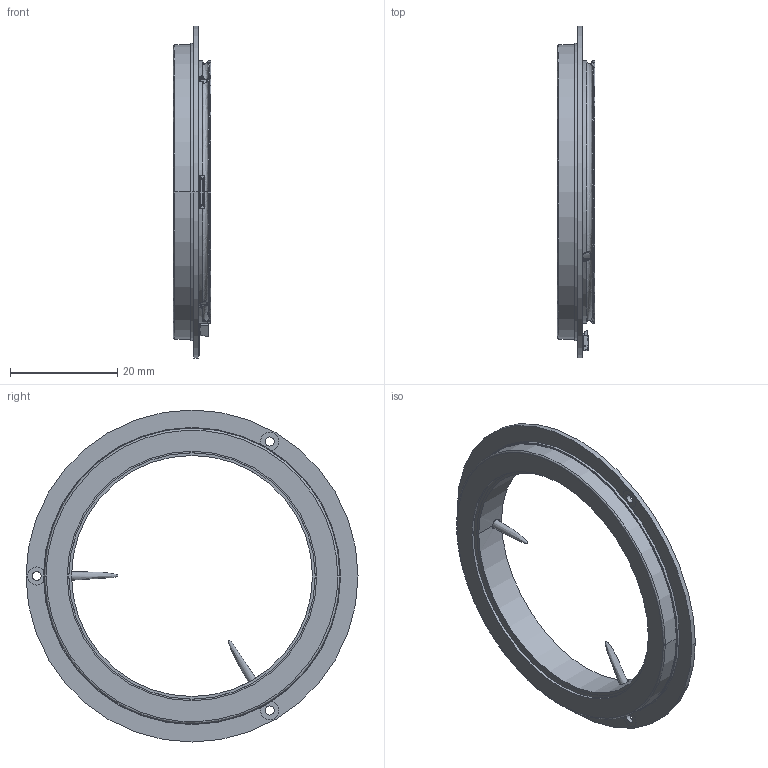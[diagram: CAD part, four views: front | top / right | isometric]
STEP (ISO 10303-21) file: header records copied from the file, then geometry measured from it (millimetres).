
FILE_DESCRIPTION (( 'STEP AP214' ), '1' );
FILE_NAME ('MBS-45-62¸üÐÂ.STEP', '2024-07-16T06:42:43', ( '' ), ( '' ), 'SwSTEP 2.0', 'SolidWorks 2016', '' );
FILE_SCHEMA (( 'AUTOMOTIVE_DESIGN' ));
Length unit declared in the file: millimetre
Products named in the file (1): MBS-45-62載陔
Bounding box: 7 x 62 x 62 mm (x, y, z)
Surface area: 9171.8 mm2 (no closed solid volume)
Topology: 0 solids, 13 shells, 791 faces, 2087 edges, 1372 vertices
Faces by surface type: plane 544, bspline 157, cylinder 78, cone 12
Entity records: 75642 total; most frequent: CARTESIAN_POINT 53112, ORIENTED_EDGE 4146, DIRECTION 3087, EDGE_CURVE 2078, VECTOR 1529, LINE 1529, VERTEX_POINT 1369, EDGE_LOOP 867
